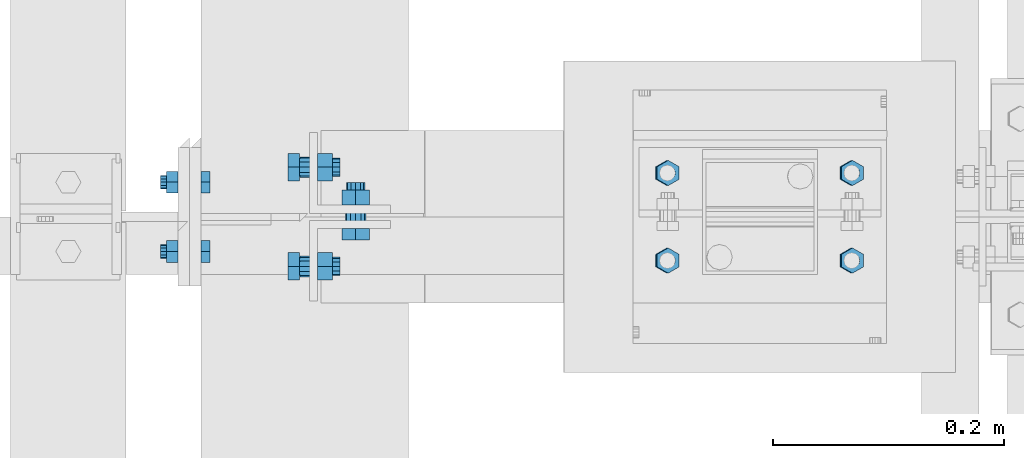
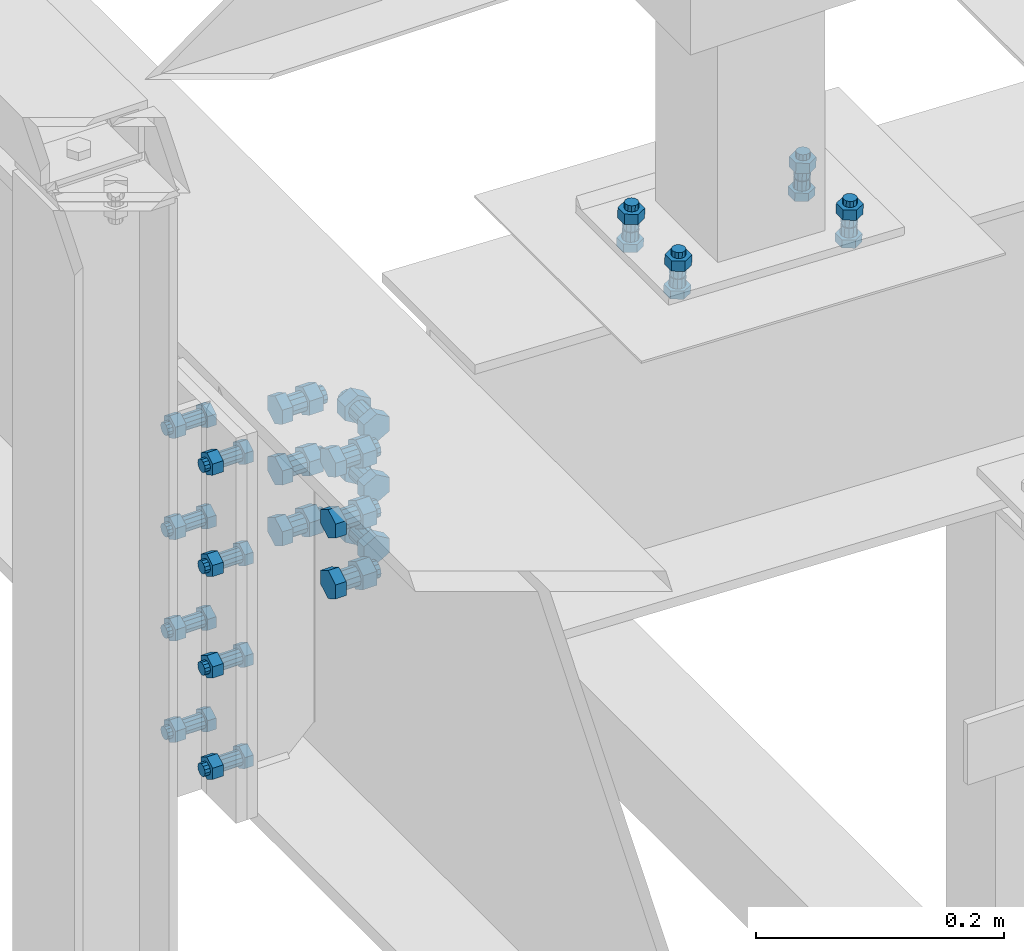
# One storey, part 36 of 3134: 5 mechanical fasteners, 4 elements without a shape of their own.
"""IFC2X3 building model written with IfcOpenShell, lengths in millimetres."""

from ifc_helpers import new_model, si_unit, frame, origin_with_axes, place, context, subcontext, project, spatial, faceted_brep, source, transform, mapped, material, type_object, element, aggregate, save


model = new_model("IFC2X3")

# Units and contexts
model_context = context("Model", 3, precision=1e-05, world=origin_with_axes())
body_context = subcontext(model_context, "Body", "Model", "MODEL_VIEW")
ifc_project = project(units=[si_unit("LENGTHUNIT", "METRE", prefix="MILLI"), si_unit("AREAUNIT", "SQUARE_METRE"), si_unit("VOLUMEUNIT", "CUBIC_METRE"), si_unit("MASSUNIT", "GRAM", prefix="KILO"), si_unit("TIMEUNIT", "SECOND"), si_unit("PLANEANGLEUNIT", "RADIAN"), si_unit("SOLIDANGLEUNIT", "STERADIAN"), si_unit("THERMODYNAMICTEMPERATUREUNIT", "DEGREE_CELSIUS"), si_unit("LUMINOUSINTENSITYUNIT", "LUMEN")], contexts=[model_context])

# Site, building, storey
site_placement = place(None, origin_with_axes())
site = spatial("IfcSite", under=ifc_project, at=site_placement, CompositionType="ELEMENT")
building_placement = place(site_placement, origin_with_axes())
building = spatial("IfcBuilding", under=site, at=building_placement, Name="Undefined", CompositionType="ELEMENT")
storey_placement = place(building_placement, origin_with_axes())
storey = spatial("IfcBuildingStorey", under=building, at=storey_placement, Name="Undefined", CompositionType="ELEMENT", Elevation=0.0)

# Assembly, mechanical fastener
assembly_1_placement = place(storey_placement, origin_with_axes())
assembly_1 = element("IfcElementAssembly", 1, at=assembly_1_placement, inside=storey, Name="IPE400", AssemblyPlace="NOTDEFINED", PredefinedType="RIGID_FRAME")
ifc_material = material(Name="8.8")
mechanical_fastener_type = type_object("IfcMechanicalFastenerType", Name="Bolt assembly")
shared_shape_1 = source(origin_with_axes(), body_context, "Body", "Brep", [
    faceted_brep([(10.9696551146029, -18.0, 0.0), (5.48482755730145, -18.0, 9.5), (-5.48482755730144, -18.0, 9.5), (-10.9696551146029, -18.0, 1.34339530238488e-15), (-5.48482755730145, -18.0, -9.5), (5.48482755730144, -18.0, -9.50000000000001), (5.48482755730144, -10.0, -9.50000000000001), (-5.48482755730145, -10.0, -9.5), (-10.9696551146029, -10.0, 1.34339530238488e-15), (-5.48482755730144, -10.0, 9.5), (5.48482755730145, -10.0, 9.5), (10.9696551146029, -10.0, 0.0), (6.0, -10.0, 0.0), (5.19615242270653, -10.0, 3.00000000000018), (2.99999999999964, -10.0, 5.19615242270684), (-6.21801588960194e-13, -10.0, 6.0), (-3.00000000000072, -10.0, 5.19615242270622), (-5.19615242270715, -10.0, 2.9999999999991), (-6.0, -10.0, -1.24360317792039e-12), (-5.19615242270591, -10.0, -3.00000000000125), (-2.99999999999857, -10.0, -5.19615242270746), (1.85874342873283e-12, -10.0, -6.0), (3.00000000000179, -10.0, -5.1961524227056), (5.19615242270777, -10.0, -2.99999999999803), (5.19615242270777, 24.9999999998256, -2.99999999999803), (3.00000000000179, 24.9999999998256, -5.1961524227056), (1.85874342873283e-12, 24.9999999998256, -6.0), (-2.99999999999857, 24.9999999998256, -5.19615242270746), (-5.19615242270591, 24.9999999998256, -3.00000000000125), (-6.0, 24.9999999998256, -1.24360317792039e-12), (-5.19615242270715, 24.9999999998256, 2.9999999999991), (-3.00000000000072, 24.9999999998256, 5.19615242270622), (-6.21801588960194e-13, 24.9999999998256, 6.0), (2.99999999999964, 24.9999999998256, 5.19615242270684), (5.19615242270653, 24.9999999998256, 3.00000000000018), (6.0, 24.9999999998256, 0.0), (10.9696551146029, 10.0, 0.0), (5.48482755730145, 10.0, 9.5), (-5.48482755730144, 10.0, 9.5), (-10.9696551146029, 10.0, 1.34339530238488e-15), (-5.48482755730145, 10.0, -9.5), (5.48482755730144, 10.0, -9.50000000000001), (5.48482755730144, 20.0, -9.50000000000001), (-5.48482755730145, 20.0, -9.5), (-10.9696551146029, 20.0, 1.34339530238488e-15), (-5.48482755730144, 20.0, 9.5), (5.48482755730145, 20.0, 9.5), (10.9696551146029, 20.0, 0.0)], [[[0, 1, 2, 3, 4, 5]], [[6, 7, 8, 9, 10, 11]], [[0, 11, 10, 1]], [[1, 10, 9, 2]], [[2, 9, 8, 3]], [[3, 8, 7, 4]], [[4, 7, 6, 5]], [[5, 6, 11, 0]], [[12, 13, 14, 15, 16, 17, 18, 19, 20, 21, 22, 23]], [[24, 25, 26, 27, 28, 29, 30, 31, 32, 33, 34, 35]], [[12, 35, 34, 13]], [[13, 34, 33, 14]], [[14, 33, 32, 15]], [[15, 32, 31, 16]], [[16, 31, 30, 17]], [[17, 30, 29, 18]], [[18, 29, 28, 19]], [[19, 28, 27, 20]], [[20, 27, 26, 21]], [[21, 26, 25, 22]], [[22, 25, 24, 23]], [[23, 24, 35, 12]], [[36, 37, 38, 39, 40, 41]], [[42, 43, 44, 45, 46, 47]], [[36, 47, 46, 37]], [[37, 46, 45, 38]], [[38, 45, 44, 39]], [[39, 44, 43, 40]], [[40, 43, 42, 41]], [[41, 42, 47, 36]]]),
    faceted_brep([(7.0, -0.1, 0.0), (6.06217782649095, -0.1, 3.50000000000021), (3.49999999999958, -0.1, 6.06217782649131), (-7.25435187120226e-13, -0.1, 7.0), (-3.50000000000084, -0.1, 6.06217782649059), (-6.06217782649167, -0.1, 3.49999999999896), (-7.0, -0.1, -1.45087037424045e-12), (-6.06217782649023, -0.1, -3.50000000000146), (-3.49999999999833, -0.1, -6.06217782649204), (2.1685340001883e-12, -0.1, -7.0), (3.50000000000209, -0.1, -6.06217782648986), (6.0621778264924, -0.1, -3.4999999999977), (6.0621778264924, 10.0, -3.4999999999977), (3.50000000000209, 10.0, -6.06217782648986), (2.1685340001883e-12, 10.0, -7.0), (-3.49999999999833, 10.0, -6.06217782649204), (-6.06217782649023, 10.0, -3.50000000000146), (-7.0, 10.0, -1.45087037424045e-12), (-6.06217782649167, 10.0, 3.49999999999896), (-3.50000000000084, 10.0, 6.06217782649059), (-7.25435187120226e-13, 10.0, 7.0), (3.49999999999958, 10.0, 6.06217782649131), (6.06217782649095, 10.0, 3.50000000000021), (7.0, 10.0, 0.0), (7.0, -9.89999913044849, 0.0), (6.06217782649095, -9.89999913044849, 3.50000000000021), (3.49999999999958, -9.89999913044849, 6.06217782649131), (-7.25435187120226e-13, -9.89999913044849, 7.0), (-3.50000000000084, -9.89999913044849, 6.06217782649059), (-6.06217782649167, -9.89999913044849, 3.49999999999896), (-7.0, -9.89999913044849, -1.45087037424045e-12), (-6.06217782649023, -9.89999913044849, -3.50000000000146), (-3.49999999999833, -9.89999913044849, -6.06217782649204), (2.1685340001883e-12, -9.89999913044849, -7.0), (3.50000000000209, -9.89999913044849, -6.06217782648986), (6.0621778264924, -9.89999913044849, -3.4999999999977), (6.0621778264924, 0.0999999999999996, -3.4999999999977), (3.50000000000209, 0.0999999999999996, -6.06217782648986), (2.1685340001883e-12, 0.0999999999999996, -7.0), (-3.49999999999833, 0.0999999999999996, -6.06217782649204), (-6.06217782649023, 0.0999999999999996, -3.50000000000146), (-7.0, 0.0999999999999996, -1.45087037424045e-12), (-6.06217782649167, 0.0999999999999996, 3.49999999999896), (-3.50000000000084, 0.0999999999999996, 6.06217782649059), (-7.25435187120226e-13, 0.0999999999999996, 7.0), (3.49999999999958, 0.0999999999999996, 6.06217782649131), (6.06217782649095, 0.0999999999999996, 3.50000000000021), (7.0, 0.0999999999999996, 0.0)], [[[0, 1, 2, 3, 4, 5, 6, 7, 8, 9, 10, 11]], [[12, 13, 14, 15, 16, 17, 18, 19, 20, 21, 22, 23]], [[0, 23, 22, 1]], [[1, 22, 21, 2]], [[2, 21, 20, 3]], [[3, 20, 19, 4]], [[4, 19, 18, 5]], [[5, 18, 17, 6]], [[6, 17, 16, 7]], [[7, 16, 15, 8]], [[8, 15, 14, 9]], [[9, 14, 13, 10]], [[10, 13, 12, 11]], [[11, 12, 23, 0]], [[24, 25, 26, 27, 28, 29, 30, 31, 32, 33, 34, 35]], [[36, 37, 38, 39, 40, 41, 42, 43, 44, 45, 46, 47]], [[24, 47, 46, 25]], [[25, 46, 45, 26]], [[26, 45, 44, 27]], [[27, 44, 43, 28]], [[28, 43, 42, 29]], [[29, 42, 41, 30]], [[30, 41, 40, 31]], [[31, 40, 39, 32]], [[32, 39, 38, 33]], [[33, 38, 37, 34]], [[34, 37, 36, 35]], [[35, 36, 47, 24]]]),
])
mechanical_fastener_1_placement = place(assembly_1_placement, frame((-100.0, 15190.0, 3990.0), z_axis=(0.0, 1.0, 0.0), x_axis=(0.0, 0.0, -1.0)))
mechanical_fastener_1 = element("IfcMechanicalFastener", 2, at=mechanical_fastener_1_placement, type_object=mechanical_fastener_type, material=ifc_material, Name="Bolt assembly", NominalDiameter=12.0, NominalLength=35.0, context=body_context, shape_type="MappedRepresentation", body=[
    mapped(shared_shape_1, transform((0.0, 4.54747350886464e-13, -30.0000000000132))),
    mapped(shared_shape_1, transform((100.0, 0.0, -30.0))),
    mapped(shared_shape_1, transform((200.0, 0.0, -30.0))),
    mapped(shared_shape_1, transform((300.0, 0.0, -30.0))),
    mapped(shared_shape_1, transform((0.0, 4.54747350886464e-13, 30.0000000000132))),
    mapped(shared_shape_1, transform((100.0, 0.0, 30.0))),
    mapped(shared_shape_1, transform((200.0, 0.0, 30.0))),
    mapped(shared_shape_1, transform((300.0, 0.0, 30.0))),
])
aggregate(assembly_1, [mechanical_fastener_1])

assembly_2_placement = place(storey_placement, origin_with_axes())
assembly_2 = element("IfcElementAssembly", 3, at=assembly_2_placement, inside=storey, AssemblyPlace="NOTDEFINED", PredefinedType="RIGID_FRAME")
shared_shape_2 = source(origin_with_axes(), body_context, "Body", "Brep", [
    faceted_brep([(13.856406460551, -18.5936482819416, 0.0), (6.92820323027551, -18.5936482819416, 12.0), (-6.92820323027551, -18.5936482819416, 12.0), (-13.856406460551, -18.5936482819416, 1.69692038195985e-15), (-6.92820323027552, -18.5936482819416, -12.0), (6.9282032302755, -18.5936482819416, -12.0), (6.9282032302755, -8.59364828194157, -12.0), (-6.92820323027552, -8.59364828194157, -12.0), (-13.856406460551, -8.59364828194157, 1.69692038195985e-15), (-6.92820323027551, -8.59364828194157, 12.0), (6.92820323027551, -8.59364828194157, 12.0), (13.856406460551, -8.59364828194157, 0.0), (8.0, -8.59364828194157, 0.0), (6.92820323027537, -8.59364828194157, 4.00000000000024), (3.99999999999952, -8.59364828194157, 6.92820323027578), (-8.29068785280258e-13, -8.59364828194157, 8.0), (-4.00000000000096, -8.59364828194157, 6.92820323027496), (-6.9282032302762, -8.59364828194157, 3.99999999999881), (-8.0, -8.59364828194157, -1.65813757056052e-12), (-6.92820323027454, -8.59364828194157, -4.00000000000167), (-3.99999999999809, -8.59364828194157, -6.92820323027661), (2.47832457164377e-12, -8.59364828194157, -8.0), (4.00000000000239, -8.59364828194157, -6.92820323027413), (6.92820323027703, -8.59364828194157, -3.99999999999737), (6.92820323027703, 26.4063517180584, -3.99999999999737), (4.00000000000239, 26.4063517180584, -6.92820323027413), (2.47832457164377e-12, 26.4063517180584, -8.0), (-3.99999999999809, 26.4063517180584, -6.92820323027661), (-6.92820323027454, 26.4063517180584, -4.00000000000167), (-8.0, 26.4063517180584, -1.65813757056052e-12), (-6.9282032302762, 26.4063517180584, 3.99999999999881), (-4.00000000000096, 26.4063517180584, 6.92820323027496), (-8.29068785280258e-13, 26.4063517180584, 8.0), (3.99999999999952, 26.4063517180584, 6.92820323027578), (6.92820323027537, 26.4063517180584, 4.00000000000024), (8.0, 26.4063517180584, 0.0), (13.856406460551, 7.0, 0.0), (6.92820323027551, 7.0, 12.0), (-6.92820323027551, 7.0, 12.0), (-13.856406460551, 7.0, 1.69692038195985e-15), (-6.92820323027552, 7.0, -12.0), (6.9282032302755, 7.0, -12.0), (6.9282032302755, 20.0, -12.0), (-6.92820323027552, 20.0, -12.0), (-13.856406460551, 20.0, 1.69692038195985e-15), (-6.92820323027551, 20.0, 12.0), (6.92820323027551, 20.0, 12.0), (13.856406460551, 20.0, 0.0)], [[[0, 1, 2, 3, 4, 5]], [[6, 7, 8, 9, 10, 11]], [[0, 11, 10, 1]], [[1, 10, 9, 2]], [[2, 9, 8, 3]], [[3, 8, 7, 4]], [[4, 7, 6, 5]], [[5, 6, 11, 0]], [[12, 13, 14, 15, 16, 17, 18, 19, 20, 21, 22, 23]], [[24, 25, 26, 27, 28, 29, 30, 31, 32, 33, 34, 35]], [[12, 35, 34, 13]], [[13, 34, 33, 14]], [[14, 33, 32, 15]], [[15, 32, 31, 16]], [[16, 31, 30, 17]], [[17, 30, 29, 18]], [[18, 29, 28, 19]], [[19, 28, 27, 20]], [[20, 27, 26, 21]], [[21, 26, 25, 22]], [[22, 25, 24, 23]], [[23, 24, 35, 12]], [[36, 37, 38, 39, 40, 41]], [[42, 43, 44, 45, 46, 47]], [[36, 47, 46, 37]], [[37, 46, 45, 38]], [[38, 45, 44, 39]], [[39, 44, 43, 40]], [[40, 43, 42, 41]], [[41, 42, 47, 36]]]),
    faceted_brep([(9.0, -8.49364828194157, 0.0), (7.79422863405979, -8.49364828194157, 4.50000000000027), (4.49999999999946, -8.49364828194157, 7.79422863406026), (-9.3270238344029e-13, -8.49364828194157, 9.0), (-4.50000000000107, -8.49364828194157, 7.79422863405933), (-7.79422863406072, -8.49364828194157, 4.49999999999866), (-9.0, -8.49364828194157, -1.86540476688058e-12), (-7.79422863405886, -8.49364828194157, -4.50000000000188), (-4.49999999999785, -8.49364828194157, -7.79422863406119), (2.78811514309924e-12, -8.49364828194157, -9.0), (4.50000000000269, -8.49364828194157, -7.7942286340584), (7.79422863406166, -8.49364828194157, -4.49999999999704), (7.79422863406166, 0.10635209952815, -4.49999999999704), (4.50000000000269, 0.10635209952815, -7.7942286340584), (2.78811514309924e-12, 0.10635209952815, -9.0), (-4.49999999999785, 0.10635209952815, -7.79422863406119), (-7.79422863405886, 0.10635209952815, -4.50000000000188), (-9.0, 0.10635209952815, -1.86540476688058e-12), (-7.79422863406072, 0.10635209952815, 4.49999999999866), (-4.50000000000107, 0.10635209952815, 7.79422863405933), (-9.3270238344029e-13, 0.10635209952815, 9.0), (4.49999999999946, 0.10635209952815, 7.79422863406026), (7.79422863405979, 0.10635209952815, 4.50000000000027), (9.0, 0.10635209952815, 0.0), (9.0, -0.1, 0.0), (7.79422863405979, -0.1, 4.50000000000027), (4.49999999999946, -0.1, 7.79422863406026), (-9.3270238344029e-13, -0.1, 9.0), (-4.50000000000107, -0.1, 7.79422863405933), (-7.79422863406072, -0.1, 4.49999999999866), (-9.0, -0.1, -1.86540476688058e-12), (-7.79422863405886, -0.1, -4.50000000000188), (-4.49999999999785, -0.1, -7.79422863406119), (2.78811514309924e-12, -0.1, -9.0), (4.50000000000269, -0.1, -7.7942286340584), (7.79422863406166, -0.1, -4.49999999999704), (7.79422863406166, 7.0, -4.49999999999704), (4.50000000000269, 7.0, -7.7942286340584), (2.78811514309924e-12, 7.0, -9.0), (-4.49999999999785, 7.0, -7.79422863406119), (-7.79422863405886, 7.0, -4.50000000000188), (-9.0, 7.0, -1.86540476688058e-12), (-7.79422863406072, 7.0, 4.49999999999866), (-4.50000000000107, 7.0, 7.79422863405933), (-9.3270238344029e-13, 7.0, 9.0), (4.49999999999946, 7.0, 7.79422863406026), (7.79422863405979, 7.0, 4.50000000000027), (9.0, 7.0, 0.0)], [[[0, 1, 2, 3, 4, 5, 6, 7, 8, 9, 10, 11]], [[12, 13, 14, 15, 16, 17, 18, 19, 20, 21, 22, 23]], [[0, 23, 22, 1]], [[1, 22, 21, 2]], [[2, 21, 20, 3]], [[3, 20, 19, 4]], [[4, 19, 18, 5]], [[5, 18, 17, 6]], [[6, 17, 16, 7]], [[7, 16, 15, 8]], [[8, 15, 14, 9]], [[9, 14, 13, 10]], [[10, 13, 12, 11]], [[11, 12, 23, 0]], [[24, 25, 26, 27, 28, 29, 30, 31, 32, 33, 34, 35]], [[36, 37, 38, 39, 40, 41, 42, 43, 44, 45, 46, 47]], [[24, 47, 46, 25]], [[25, 46, 45, 26]], [[26, 45, 44, 27]], [[27, 44, 43, 28]], [[28, 43, 42, 29]], [[29, 42, 41, 30]], [[30, 41, 40, 31]], [[31, 40, 39, 32]], [[32, 39, 38, 33]], [[33, 38, 37, 34]], [[34, 37, 36, 35]], [[35, 36, 47, 24]]]),
])
mechanical_fastener_2_placement = place(assembly_2_placement, frame((4.29364809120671, 15233.04, 3841.86727512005), z_axis=(0.0, 1.0, 0.0), x_axis=(0.0, 0.0, 1.0)))
mechanical_fastener_2 = element("IfcMechanicalFastener", 4, at=mechanical_fastener_2_placement, type_object=mechanical_fastener_type, material=ifc_material, Name="Bolt assembly", NominalDiameter=16.0, NominalLength=35.0, context=body_context, shape_type="MappedRepresentation", body=[
    mapped(shared_shape_2, transform((0.0, 0.0, 0.0))),
    mapped(shared_shape_2, transform((59.9999999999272, 0.0, 5.40239852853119e-10))),
    mapped(shared_shape_2, transform((120.0, 0.0, 0.0))),
])
aggregate(assembly_2, [mechanical_fastener_2])

# Assembly, mechanical fasteners
assembly_3_placement = place(storey_placement, origin_with_axes())
assembly_3 = element("IfcElementAssembly", 5, at=assembly_3_placement, inside=storey, AssemblyPlace="NOTDEFINED", PredefinedType="RIGID_FRAME")
mechanical_fastener_3_placement = place(assembly_3_placement, frame((4.29364809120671, 15146.96, 3841.86727512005), z_axis=(0.0, 1.0, 0.0), x_axis=(0.0, 0.0, 1.0)))
mechanical_fastener_3 = element("IfcMechanicalFastener", 6, at=mechanical_fastener_3_placement, type_object=mechanical_fastener_type, material=ifc_material, Name="Bolt assembly", NominalDiameter=16.0, NominalLength=35.0, context=body_context, shape_type="MappedRepresentation", body=[
    mapped(shared_shape_2, transform((0.0, 0.0, 0.0))),
    mapped(shared_shape_2, transform((59.9999999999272, 0.0, 5.40239852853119e-10))),
    mapped(shared_shape_2, transform((120.0, 0.0, 0.0))),
])
shared_shape_3 = source(origin_with_axes(), body_context, "Body", "Brep", [
    faceted_brep([(13.856406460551, -20.0400000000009, 0.0), (6.92820323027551, -20.0400000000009, 12.0), (-6.92820323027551, -20.0400000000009, 12.0), (-13.856406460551, -20.0400000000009, 1.69692038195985e-15), (-6.92820323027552, -20.0400000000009, -12.0), (6.9282032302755, -20.0400000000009, -12.0), (6.9282032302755, -10.0400000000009, -12.0), (-6.92820323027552, -10.0400000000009, -12.0), (-13.856406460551, -10.0400000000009, 1.69692038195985e-15), (-6.92820323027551, -10.0400000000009, 12.0), (6.92820323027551, -10.0400000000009, 12.0), (13.856406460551, -10.0400000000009, 0.0), (8.0, -10.0400000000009, 0.0), (6.92820323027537, -10.0400000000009, 4.00000000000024), (3.99999999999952, -10.0400000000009, 6.92820323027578), (-8.29068785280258e-13, -10.0400000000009, 8.0), (-4.00000000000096, -10.0400000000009, 6.92820323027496), (-6.9282032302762, -10.0400000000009, 3.99999999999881), (-8.0, -10.0400000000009, -1.65813757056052e-12), (-6.92820323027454, -10.0400000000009, -4.00000000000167), (-3.99999999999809, -10.0400000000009, -6.92820323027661), (2.47832457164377e-12, -10.0400000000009, -8.0), (4.00000000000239, -10.0400000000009, -6.92820323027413), (6.92820323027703, -10.0400000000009, -3.99999999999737), (6.92820323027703, 29.9599999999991, -3.99999999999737), (4.00000000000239, 29.9599999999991, -6.92820323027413), (2.47832457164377e-12, 29.9599999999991, -8.0), (-3.99999999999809, 29.9599999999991, -6.92820323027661), (-6.92820323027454, 29.9599999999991, -4.00000000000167), (-8.0, 29.9599999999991, -1.65813757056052e-12), (-6.9282032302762, 29.9599999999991, 3.99999999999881), (-4.00000000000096, 29.9599999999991, 6.92820323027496), (-8.29068785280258e-13, 29.9599999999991, 8.0), (3.99999999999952, 29.9599999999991, 6.92820323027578), (6.92820323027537, 29.9599999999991, 4.00000000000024), (8.0, 29.9599999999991, 0.0), (13.856406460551, 10.0400000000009, 0.0), (6.92820323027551, 10.0400000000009, 12.0), (-6.92820323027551, 10.0400000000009, 12.0), (-13.856406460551, 10.0400000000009, 1.69692038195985e-15), (-6.92820323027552, 10.0400000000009, -12.0), (6.9282032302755, 10.0400000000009, -12.0), (6.9282032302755, 23.0400000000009, -12.0), (-6.92820323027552, 23.0400000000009, -12.0), (-13.856406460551, 23.0400000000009, 1.69692038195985e-15), (-6.92820323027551, 23.0400000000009, 12.0), (6.92820323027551, 23.0400000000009, 12.0), (13.856406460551, 23.0400000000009, 0.0)], [[[0, 1, 2, 3, 4, 5]], [[6, 7, 8, 9, 10, 11]], [[0, 11, 10, 1]], [[1, 10, 9, 2]], [[2, 9, 8, 3]], [[3, 8, 7, 4]], [[4, 7, 6, 5]], [[5, 6, 11, 0]], [[12, 13, 14, 15, 16, 17, 18, 19, 20, 21, 22, 23]], [[24, 25, 26, 27, 28, 29, 30, 31, 32, 33, 34, 35]], [[12, 35, 34, 13]], [[13, 34, 33, 14]], [[14, 33, 32, 15]], [[15, 32, 31, 16]], [[16, 31, 30, 17]], [[17, 30, 29, 18]], [[18, 29, 28, 19]], [[19, 28, 27, 20]], [[20, 27, 26, 21]], [[21, 26, 25, 22]], [[22, 25, 24, 23]], [[23, 24, 35, 12]], [[36, 37, 38, 39, 40, 41]], [[42, 43, 44, 45, 46, 47]], [[36, 47, 46, 37]], [[37, 46, 45, 38]], [[38, 45, 44, 39]], [[39, 44, 43, 40]], [[40, 43, 42, 41]], [[41, 42, 47, 36]]]),
    faceted_brep([(9.0, -3.04999995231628, 0.0), (7.79422863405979, -3.04999995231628, 4.50000000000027), (4.49999999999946, -3.04999995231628, 7.79422863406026), (-9.3270238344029e-13, -3.04999995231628, 9.0), (-4.50000000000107, -3.04999995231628, 7.79422863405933), (-7.79422863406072, -3.04999995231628, 4.49999999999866), (-9.0, -3.04999995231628, -1.86540476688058e-12), (-7.79422863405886, -3.04999995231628, -4.50000000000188), (-4.49999999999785, -3.04999995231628, -7.79422863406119), (2.78811514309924e-12, -3.04999995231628, -9.0), (4.50000000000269, -3.04999995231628, -7.7942286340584), (7.79422863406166, -3.04999995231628, -4.49999999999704), (7.79422863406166, 3.04999995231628, -4.49999999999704), (4.50000000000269, 3.04999995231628, -7.7942286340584), (2.78811514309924e-12, 3.04999995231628, -9.0), (-4.49999999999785, 3.04999995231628, -7.79422863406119), (-7.79422863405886, 3.04999995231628, -4.50000000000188), (-9.0, 3.04999995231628, -1.86540476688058e-12), (-7.79422863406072, 3.04999995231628, 4.49999999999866), (-4.50000000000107, 3.04999995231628, 7.79422863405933), (-9.3270238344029e-13, 3.04999995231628, 9.0), (4.49999999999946, 3.04999995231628, 7.79422863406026), (7.79422863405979, 3.04999995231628, 4.50000000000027), (9.0, 3.04999995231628, 0.0), (9.0, -9.94000000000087, 0.0), (7.79422863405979, -9.94000000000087, 4.50000000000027), (4.49999999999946, -9.94000000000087, 7.79422863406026), (-9.3270238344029e-13, -9.94000000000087, 9.0), (-4.50000000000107, -9.94000000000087, 7.79422863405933), (-7.79422863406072, -9.94000000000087, 4.49999999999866), (-9.0, -9.94000000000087, -1.86540476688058e-12), (-7.79422863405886, -9.94000000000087, -4.50000000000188), (-4.49999999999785, -9.94000000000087, -7.79422863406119), (2.78811514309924e-12, -9.94000000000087, -9.0), (4.50000000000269, -9.94000000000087, -7.7942286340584), (7.79422863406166, -9.94000000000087, -4.49999999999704), (7.79422863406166, -2.94000000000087, -4.49999999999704), (4.50000000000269, -2.94000000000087, -7.7942286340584), (2.78811514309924e-12, -2.94000000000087, -9.0), (-4.49999999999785, -2.94000000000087, -7.79422863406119), (-7.79422863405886, -2.94000000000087, -4.50000000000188), (-9.0, -2.94000000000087, -1.86540476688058e-12), (-7.79422863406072, -2.94000000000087, 4.49999999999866), (-4.50000000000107, -2.94000000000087, 7.79422863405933), (-9.3270238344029e-13, -2.94000000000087, 9.0), (4.49999999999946, -2.94000000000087, 7.79422863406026), (7.79422863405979, -2.94000000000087, 4.50000000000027), (9.0, -2.94000000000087, 0.0), (9.0, 2.94000000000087, 0.0), (7.79422863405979, 2.94000000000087, 4.50000000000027), (4.49999999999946, 2.94000000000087, 7.79422863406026), (-9.3270238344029e-13, 2.94000000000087, 9.0), (-4.50000000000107, 2.94000000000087, 7.79422863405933), (-7.79422863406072, 2.94000000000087, 4.49999999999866), (-9.0, 2.94000000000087, -1.86540476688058e-12), (-7.79422863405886, 2.94000000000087, -4.50000000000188), (-4.49999999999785, 2.94000000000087, -7.79422863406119), (2.78811514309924e-12, 2.94000000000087, -9.0), (4.50000000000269, 2.94000000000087, -7.7942286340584), (7.79422863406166, 2.94000000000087, -4.49999999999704), (7.79422863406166, 10.0400000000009, -4.49999999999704), (4.50000000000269, 10.0400000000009, -7.7942286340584), (2.78811514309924e-12, 10.0400000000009, -9.0), (-4.49999999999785, 10.0400000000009, -7.79422863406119), (-7.79422863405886, 10.0400000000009, -4.50000000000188), (-9.0, 10.0400000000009, -1.86540476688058e-12), (-7.79422863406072, 10.0400000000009, 4.49999999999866), (-4.50000000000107, 10.0400000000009, 7.79422863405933), (-9.3270238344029e-13, 10.0400000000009, 9.0), (4.49999999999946, 10.0400000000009, 7.79422863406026), (7.79422863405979, 10.0400000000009, 4.50000000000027), (9.0, 10.0400000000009, 0.0)], [[[0, 1, 2, 3, 4, 5, 6, 7, 8, 9, 10, 11]], [[12, 13, 14, 15, 16, 17, 18, 19, 20, 21, 22, 23]], [[0, 23, 22, 1]], [[1, 22, 21, 2]], [[2, 21, 20, 3]], [[3, 20, 19, 4]], [[4, 19, 18, 5]], [[5, 18, 17, 6]], [[6, 17, 16, 7]], [[7, 16, 15, 8]], [[8, 15, 14, 9]], [[9, 14, 13, 10]], [[10, 13, 12, 11]], [[11, 12, 23, 0]], [[24, 25, 26, 27, 28, 29, 30, 31, 32, 33, 34, 35]], [[36, 37, 38, 39, 40, 41, 42, 43, 44, 45, 46, 47]], [[24, 47, 46, 25]], [[25, 46, 45, 26]], [[26, 45, 44, 27]], [[27, 44, 43, 28]], [[28, 43, 42, 29]], [[29, 42, 41, 30]], [[30, 41, 40, 31]], [[31, 40, 39, 32]], [[32, 39, 38, 33]], [[33, 38, 37, 34]], [[34, 37, 36, 35]], [[35, 36, 47, 24]], [[48, 49, 50, 51, 52, 53, 54, 55, 56, 57, 58, 59]], [[60, 61, 62, 63, 64, 65, 66, 67, 68, 69, 70, 71]], [[48, 71, 70, 49]], [[49, 70, 69, 50]], [[50, 69, 68, 51]], [[51, 68, 67, 52]], [[52, 67, 66, 53]], [[53, 66, 65, 54]], [[54, 65, 64, 55]], [[55, 64, 63, 56]], [[56, 63, 62, 57]], [[57, 62, 61, 58]], [[58, 61, 60, 59]], [[59, 60, 71, 48]]]),
])
mechanical_fastener_4_placement = place(assembly_3_placement, frame((44.2936480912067, 15190.0, 3841.86727512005), z_axis=(-1.0, 0.0, 0.0), x_axis=(0.0, 0.0, 1.0)))
mechanical_fastener_4 = element("IfcMechanicalFastener", 7, at=mechanical_fastener_4_placement, type_object=mechanical_fastener_type, material=ifc_material, Name="Bolt assembly", NominalDiameter=16.0, NominalLength=40.0, context=body_context, shape_type="MappedRepresentation", body=[
    mapped(shared_shape_3, transform((0.0, 0.0, 0.0))),
    mapped(shared_shape_3, transform((59.9999999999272, 0.0, 5.40239852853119e-10))),
    mapped(shared_shape_3, transform((120.0, 0.0, 0.0))),
])
aggregate(assembly_3, [mechanical_fastener_3, mechanical_fastener_4])

# Assembly, mechanical fastener
assembly_4_placement = place(storey_placement, origin_with_axes())
assembly_4 = element("IfcElementAssembly", 8, at=assembly_4_placement, inside=storey, AssemblyPlace="NOTDEFINED", PredefinedType="RIGID_FRAME")
shared_shape_4 = source(origin_with_axes(), body_context, "Body", "Brep", [
    faceted_brep([(10.9696551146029, -4.19432770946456, 0.0), (5.48482755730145, -4.19432770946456, 9.5), (-5.48482755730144, -4.19432770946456, 9.5), (-10.9696551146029, -4.19432770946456, 1.34339530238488e-15), (-5.48482755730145, -4.19432770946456, -9.5), (5.48482755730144, -4.19432770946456, -9.50000000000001), (5.48482755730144, 3.80567229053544, -9.50000000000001), (-5.48482755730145, 3.80567229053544, -9.5), (-10.9696551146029, 3.80567229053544, 1.34339530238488e-15), (-5.48482755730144, 3.80567229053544, 9.5), (5.48482755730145, 3.80567229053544, 9.5), (10.9696551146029, 3.80567229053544, 0.0), (6.0, 3.80567229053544, 0.0), (5.19615242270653, 3.80567229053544, 3.00000000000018), (2.99999999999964, 3.80567229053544, 5.19615242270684), (-6.21801588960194e-13, 3.80567229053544, 6.0), (-3.00000000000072, 3.80567229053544, 5.19615242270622), (-5.19615242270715, 3.80567229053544, 2.9999999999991), (-6.0, 3.80567229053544, -1.24360317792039e-12), (-5.19615242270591, 3.80567229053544, -3.00000000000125), (-2.99999999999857, 3.80567229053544, -5.19615242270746), (1.85874342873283e-12, 3.80567229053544, -6.0), (3.00000000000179, 3.80567229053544, -5.1961524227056), (5.19615242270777, 3.80567229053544, -2.99999999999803), (5.19615242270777, 38.8056722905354, -2.99999999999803), (3.00000000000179, 38.8056722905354, -5.1961524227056), (1.85874342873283e-12, 38.8056722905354, -6.0), (-2.99999999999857, 38.8056722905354, -5.19615242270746), (-5.19615242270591, 38.8056722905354, -3.00000000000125), (-6.0, 38.8056722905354, -1.24360317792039e-12), (-5.19615242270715, 38.8056722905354, 2.9999999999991), (-3.00000000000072, 38.8056722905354, 5.19615242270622), (-6.21801588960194e-13, 38.8056722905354, 6.0), (2.99999999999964, 38.8056722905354, 5.19615242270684), (5.19615242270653, 38.8056722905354, 3.00000000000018), (6.0, 38.8056722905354, 0.0), (10.9696551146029, 23.0139082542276, 0.0), (5.48482755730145, 23.0139082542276, 9.5), (-5.48482755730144, 23.0139082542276, 9.5), (-10.9696551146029, 23.0139082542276, 1.34339530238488e-15), (-5.48482755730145, 23.0139082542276, -9.5), (5.48482755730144, 23.0139082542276, -9.50000000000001), (5.48482755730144, 33.0139082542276, -9.50000000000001), (-5.48482755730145, 33.0139082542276, -9.5), (-10.9696551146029, 33.0139082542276, 1.34339530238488e-15), (-5.48482755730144, 33.0139082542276, 9.5), (5.48482755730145, 33.0139082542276, 9.5), (10.9696551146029, 33.0139082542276, 0.0)], [[[0, 1, 2, 3, 4, 5]], [[6, 7, 8, 9, 10, 11]], [[0, 11, 10, 1]], [[1, 10, 9, 2]], [[2, 9, 8, 3]], [[3, 8, 7, 4]], [[4, 7, 6, 5]], [[5, 6, 11, 0]], [[12, 13, 14, 15, 16, 17, 18, 19, 20, 21, 22, 23]], [[24, 25, 26, 27, 28, 29, 30, 31, 32, 33, 34, 35]], [[12, 35, 34, 13]], [[13, 34, 33, 14]], [[14, 33, 32, 15]], [[15, 32, 31, 16]], [[16, 31, 30, 17]], [[17, 30, 29, 18]], [[18, 29, 28, 19]], [[19, 28, 27, 20]], [[20, 27, 26, 21]], [[21, 26, 25, 22]], [[22, 25, 24, 23]], [[23, 24, 35, 12]], [[36, 37, 38, 39, 40, 41]], [[42, 43, 44, 45, 46, 47]], [[36, 47, 46, 37]], [[37, 46, 45, 38]], [[38, 45, 44, 39]], [[39, 44, 43, 40]], [[40, 43, 42, 41]], [[41, 42, 47, 36]]]),
    faceted_brep([(7.0, 3.90567229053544, 0.0), (6.06217782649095, 3.90567229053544, 3.50000000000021), (3.49999999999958, 3.90567229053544, 6.06217782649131), (-7.25435187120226e-13, 3.90567229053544, 7.0), (-3.50000000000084, 3.90567229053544, 6.06217782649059), (-6.06217782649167, 3.90567229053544, 3.49999999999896), (-7.0, 3.90567229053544, -1.45087037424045e-12), (-6.06217782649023, 3.90567229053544, -3.50000000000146), (-3.49999999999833, 3.90567229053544, -6.06217782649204), (2.1685340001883e-12, 3.90567229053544, -7.0), (3.50000000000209, 3.90567229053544, -6.06217782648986), (6.0621778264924, 3.90567229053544, -3.4999999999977), (6.0621778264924, 13.1056721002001, -3.4999999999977), (3.50000000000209, 13.1056721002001, -6.06217782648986), (2.1685340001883e-12, 13.1056721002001, -7.0), (-3.49999999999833, 13.1056721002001, -6.06217782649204), (-6.06217782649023, 13.1056721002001, -3.50000000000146), (-7.0, 13.1056721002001, -1.45087037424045e-12), (-6.06217782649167, 13.1056721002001, 3.49999999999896), (-3.50000000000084, 13.1056721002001, 6.06217782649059), (-7.25435187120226e-13, 13.1056721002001, 7.0), (3.49999999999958, 13.1056721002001, 6.06217782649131), (6.06217782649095, 13.1056721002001, 3.50000000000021), (7.0, 13.1056721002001, 0.0), (7.0, 14.9139082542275, 0.0), (6.06217782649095, 14.9139082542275, 3.50000000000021), (3.49999999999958, 14.9139082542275, 6.06217782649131), (-7.25435187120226e-13, 14.9139082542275, 7.0), (-3.50000000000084, 14.9139082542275, 6.06217782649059), (-6.06217782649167, 14.9139082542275, 3.49999999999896), (-7.0, 14.9139082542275, -1.45087037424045e-12), (-6.06217782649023, 14.9139082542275, -3.50000000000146), (-3.49999999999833, 14.9139082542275, -6.06217782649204), (2.1685340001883e-12, 14.9139082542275, -7.0), (3.50000000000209, 14.9139082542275, -6.06217782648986), (6.0621778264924, 14.9139082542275, -3.4999999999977), (6.0621778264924, 23.0139082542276, -3.4999999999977), (3.50000000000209, 23.0139082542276, -6.06217782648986), (2.1685340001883e-12, 23.0139082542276, -7.0), (-3.49999999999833, 23.0139082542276, -6.06217782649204), (-6.06217782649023, 23.0139082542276, -3.50000000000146), (-7.0, 23.0139082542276, -1.45087037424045e-12), (-6.06217782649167, 23.0139082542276, 3.49999999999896), (-3.50000000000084, 23.0139082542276, 6.06217782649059), (-7.25435187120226e-13, 23.0139082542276, 7.0), (3.49999999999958, 23.0139082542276, 6.06217782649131), (6.06217782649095, 23.0139082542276, 3.50000000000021), (7.0, 23.0139082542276, 0.0)], [[[0, 1, 2, 3, 4, 5, 6, 7, 8, 9, 10, 11]], [[12, 13, 14, 15, 16, 17, 18, 19, 20, 21, 22, 23]], [[0, 23, 22, 1]], [[1, 22, 21, 2]], [[2, 21, 20, 3]], [[3, 20, 19, 4]], [[4, 19, 18, 5]], [[5, 18, 17, 6]], [[6, 17, 16, 7]], [[7, 16, 15, 8]], [[8, 15, 14, 9]], [[9, 14, 13, 10]], [[10, 13, 12, 11]], [[11, 12, 23, 0]], [[24, 25, 26, 27, 28, 29, 30, 31, 32, 33, 34, 35]], [[36, 37, 38, 39, 40, 41, 42, 43, 44, 45, 46, 47]], [[24, 47, 46, 25]], [[25, 46, 45, 26]], [[26, 45, 44, 27]], [[27, 44, 43, 28]], [[28, 43, 42, 29]], [[29, 42, 41, 30]], [[30, 41, 40, 31]], [[31, 40, 39, 32]], [[32, 39, 38, 33]], [[33, 38, 37, 34]], [[34, 37, 36, 35]], [[35, 36, 47, 24]]]),
])
mechanical_fastener_5_placement = place(assembly_4_placement, frame((394.193176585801, 15227.9999999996, 4013.19000668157), z_axis=(-0.999387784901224, 0.0, 0.0349865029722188), x_axis=(0.0, -1.0, 0.0)))
mechanical_fastener_5 = element("IfcMechanicalFastener", 9, at=mechanical_fastener_5_placement, type_object=mechanical_fastener_type, material=ifc_material, Name="Bolt assembly", NominalDiameter=12.0, NominalLength=35.0, context=body_context, shape_type="MappedRepresentation", body=[
    mapped(shared_shape_4, transform((0.0, -5.32963895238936e-10, -79.9999999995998))),
    mapped(shared_shape_4, transform((76.0, -5.32963895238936e-10, -79.9999999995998))),
    mapped(shared_shape_4, transform((0.0, 5.3114490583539e-10, 79.9999999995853))),
    mapped(shared_shape_4, transform((76.0, 5.3114490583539e-10, 79.9999999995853))),
])
aggregate(assembly_4, [mechanical_fastener_5])

save(model, "model.ifc")
